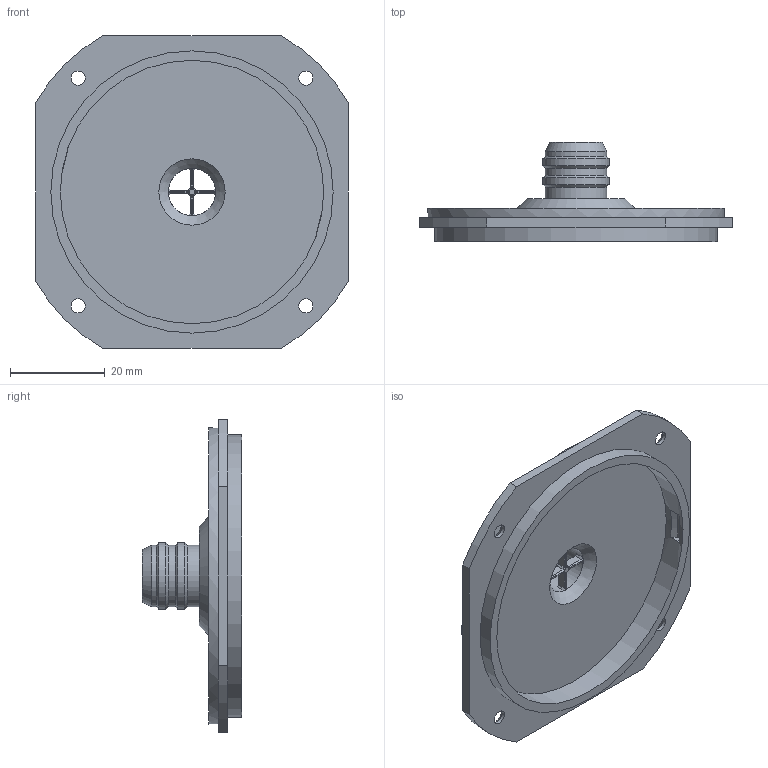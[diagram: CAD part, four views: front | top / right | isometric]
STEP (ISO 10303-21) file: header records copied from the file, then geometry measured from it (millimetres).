
FILE_DESCRIPTION(/* description */ (''),/* implementation_level */ '2;1');
FILE_NAME(/* name */ '/Users/valerian/Desktop/Filter Box Casing (Exhaust Out).step',/* time_stamp */ '2020-11-22T20:25:26+01:00',/* author */ (''),/* organization */ (''),/* preprocessor_version */ 'ST-DEVELOPER v18.1',/* originating_system */ 'Autodesk Translation Framework v9.3.0.1241',/* authorisation */ '');
FILE_SCHEMA (('AUTOMOTIVE_DESIGN { 1 0 10303 214 3 1 1 }'));
Length unit declared in the file: millimetre
Products named in the file (1): Casing
Bounding box: 66 x 21 x 66 mm (x, y, z)
Volume: 11492.2 mm3; surface area: 11338.8 mm2
Topology: 1 solids, 1 shells, 91 faces, 246 edges, 153 vertices
Faces by surface type: plane 51, cylinder 23, cone 17
Full cylindrical faces by diameter (mm): 3 x4, 10 x1, 13 x3, 14 x2, 55.6 x1, 59.6 x1, 62.6 x1
Entity records: 2934 total; most frequent: CARTESIAN_POINT 543, DIRECTION 511, ORIENTED_EDGE 492, EDGE_CURVE 246, AXIS2_PLACEMENT_3D 189, VERTEX_POINT 153, LINE 133, VECTOR 133
